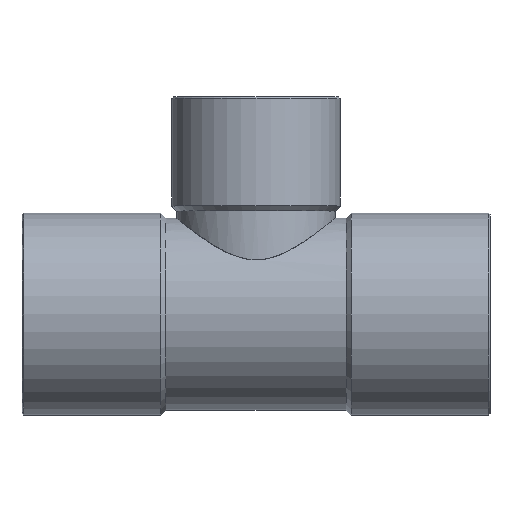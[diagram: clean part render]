
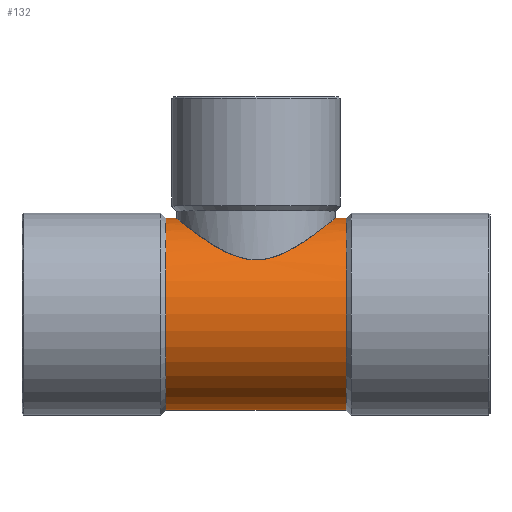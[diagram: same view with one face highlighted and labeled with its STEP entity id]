
A CAD part, top view. The second image highlights one B-rep face of the part: STEP entity #132.
In plain terms, the highlighted cylindrical face has radius 11.5 mm (diameter 23 mm), a partial arc.
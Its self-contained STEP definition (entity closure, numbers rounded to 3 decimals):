
#44=CARTESIAN_POINT('',(0.0,0.,0.0));
#45=DIRECTION('',(1.0,0.,0.0));
#46=DIRECTION('',(0.0,1.0,0.0));
#47=AXIS2_PLACEMENT_3D('',#44,#45,#46);
#48=CYLINDRICAL_SURFACE('',#47,11.5);
#49=CARTESIAN_POINT('',(-10.775,11.5,0.));
#50=VERTEX_POINT('',#49);
#51=CARTESIAN_POINT('',(-9.53,11.5,0.));
#52=VERTEX_POINT('',#51);
#53=CARTESIAN_POINT('',(-10.775,11.5,0.));
#54=DIRECTION('',(1.0,0.0,0.0));
#55=VECTOR('',#54,1.245);
#56=LINE('',#53,#55);
#57=EDGE_CURVE('',#50,#52,#56,.T.);
#58=ORIENTED_EDGE('',*,*,#57,.F.);
#59=CARTESIAN_POINT('',(-10.775,-11.5,0.));
#60=VERTEX_POINT('',#59);
#61=CARTESIAN_POINT('',(-10.775,0.,0.0));
#62=DIRECTION('',(1.0,0.0,0.0));
#63=DIRECTION('',(0.0,1.0,0.0));
#64=AXIS2_PLACEMENT_3D('',#61,#62,#63);
#65=CIRCLE('',#64,11.5);
#66=EDGE_CURVE('',#50,#60,#65,.T.);
#67=ORIENTED_EDGE('',*,*,#66,.T.);
#68=CARTESIAN_POINT('',(10.775,-11.5,0.));
#69=VERTEX_POINT('',#68);
#70=CARTESIAN_POINT('',(10.775,-11.5,0.));
#71=DIRECTION('',(-1.0,0.0,0.0));
#72=VECTOR('',#71,21.55);
#73=LINE('',#70,#72);
#74=EDGE_CURVE('',#69,#60,#73,.T.);
#75=ORIENTED_EDGE('',*,*,#74,.F.);
#76=CARTESIAN_POINT('',(10.775,11.5,0.));
#77=VERTEX_POINT('',#76);
#78=CARTESIAN_POINT('',(10.775,0.,0.0));
#79=DIRECTION('',(-1.0,0.0,0.0));
#80=DIRECTION('',(0.0,1.0,0.0));
#81=AXIS2_PLACEMENT_3D('',#78,#79,#80);
#82=CIRCLE('',#81,11.5);
#83=EDGE_CURVE('',#69,#77,#82,.T.);
#84=ORIENTED_EDGE('',*,*,#83,.T.);
#85=CARTESIAN_POINT('',(9.53,11.5,0.));
#86=VERTEX_POINT('',#85);
#87=CARTESIAN_POINT('',(9.53,11.5,0.));
#88=DIRECTION('',(1.0,0.0,0.0));
#89=VECTOR('',#88,1.245);
#90=LINE('',#87,#89);
#91=EDGE_CURVE('',#86,#77,#90,.T.);
#92=ORIENTED_EDGE('',*,*,#91,.F.);
#93=CARTESIAN_POINT('',(-9.53,11.5,0.));
#94=CARTESIAN_POINT('',(-9.53,11.5,0.367));
#95=CARTESIAN_POINT('',(-9.509,11.482,0.735));
#96=CARTESIAN_POINT('',(-9.384,11.38,1.802));
#97=CARTESIAN_POINT('',(-9.223,11.247,2.492));
#98=CARTESIAN_POINT('',(-8.725,10.844,3.909));
#99=CARTESIAN_POINT('',(-8.368,10.559,4.612));
#100=CARTESIAN_POINT('',(-7.679,10.027,5.65));
#101=CARTESIAN_POINT('',(-7.387,9.805,6.024));
#102=CARTESIAN_POINT('',(-6.76,9.344,6.716));
#103=CARTESIAN_POINT('',(-6.426,9.106,7.034));
#104=CARTESIAN_POINT('',(-5.611,8.55,7.706));
#105=CARTESIAN_POINT('',(-5.117,8.232,8.041));
#106=CARTESIAN_POINT('',(-4.079,7.634,8.61));
#107=CARTESIAN_POINT('',(-3.536,7.353,8.848));
#108=CARTESIAN_POINT('',(-2.367,6.869,9.228));
#109=CARTESIAN_POINT('',(-1.741,6.671,9.368));
#110=CARTESIAN_POINT('',(-0.328,6.438,9.53));
#111=CARTESIAN_POINT('',(0.463,6.447,9.525));
#112=CARTESIAN_POINT('',(1.855,6.704,9.345));
#113=CARTESIAN_POINT('',(2.468,6.906,9.201));
#114=CARTESIAN_POINT('',(3.587,7.379,8.825));
#115=CARTESIAN_POINT('',(4.1,7.646,8.599));
#116=CARTESIAN_POINT('',(5.074,8.207,8.065));
#117=CARTESIAN_POINT('',(5.531,8.499,7.76));
#118=CARTESIAN_POINT('',(6.504,9.156,6.982));
#119=CARTESIAN_POINT('',(7.008,9.522,6.481));
#120=CARTESIAN_POINT('',(7.972,10.248,5.274));
#121=CARTESIAN_POINT('',(8.416,10.598,4.544));
#122=CARTESIAN_POINT('',(9.126,11.167,2.891));
#123=CARTESIAN_POINT('',(9.375,11.372,1.963));
#124=CARTESIAN_POINT('',(9.512,11.485,0.671));
#125=CARTESIAN_POINT('',(9.53,11.5,0.335));
#126=CARTESIAN_POINT('',(9.53,11.5,0.));
#127=B_SPLINE_CURVE_WITH_KNOTS('',3,(#93,#94,#95,#96,#97,#98,#99,#100,#101,#102,#103,#104,#105,#106,#107,#108,#109,#110,#111,#112,#113,#114,#115,#116,#117,#118,#119,#120,#121,#122,#123,#124,#125,#126),.UNSPECIFIED.,.F.,.U.,(4,2,2,2,2,2,2,2,2,2,2,2,2,2,2,2,4),(1.547,1.654,1.862,2.104,2.256,2.407,2.603,2.793,2.987,3.213,3.402,3.582,3.763,3.993,4.259,4.542,4.64),.UNSPECIFIED.);
#128=EDGE_CURVE('',#52,#86,#127,.T.);
#129=ORIENTED_EDGE('',*,*,#128,.F.);
#130=EDGE_LOOP('',(#58,#67,#75,#84,#92,#129));
#131=FACE_OUTER_BOUND('',#130,.T.);
#132=ADVANCED_FACE('',(#131),#48,.T.);
